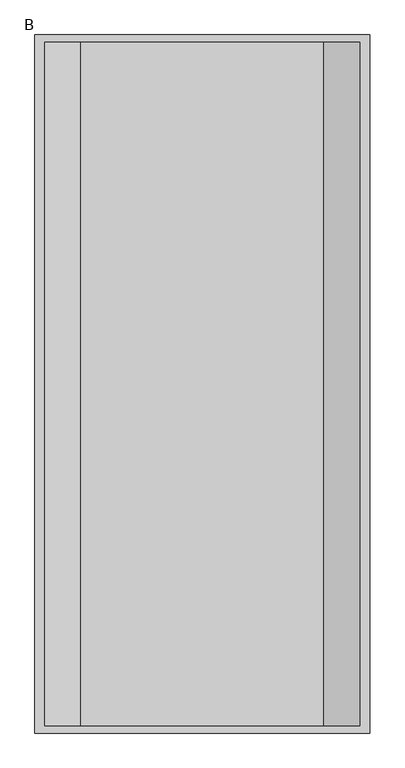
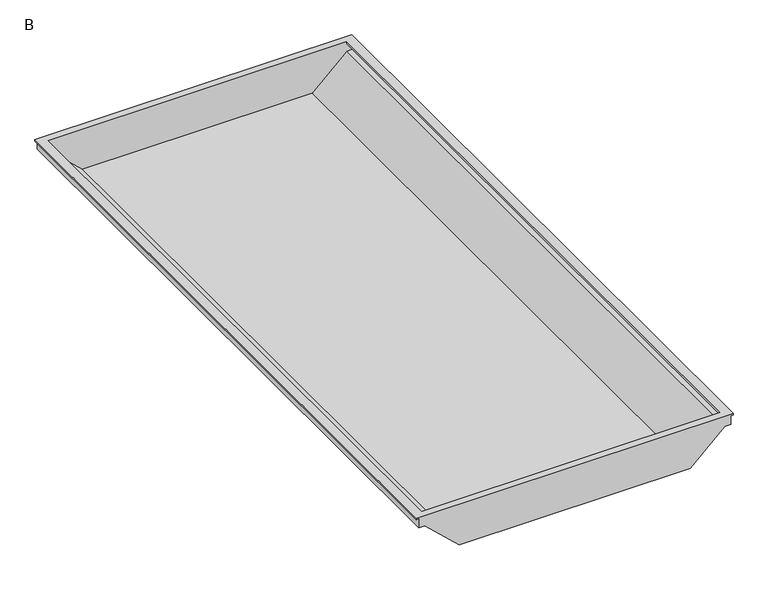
"""IFC4 building model written with IfcOpenShell, lengths in millimetres: light fixture geometry, OD74 (B) 2x4 Volumetric : B."""

import ifcopenshell
import ifcopenshell.guid

model = None  # the IFC model being written
_history = None  # IfcOwnerHistory: only IFC2X3 demands one
_inside = {}  # id of a spatial element -> (the spatial element, [elements in it])
_under = {}  # id of a project, library or spatial element -> (it, [spatial elements below it])
_declared = {}  # id of a project -> (the project, [libraries it declares])
_typed = {}  # id of a type object -> (the type object, [elements of that type])
_made_of = {}  # id of a material, layer set ... -> (it, [elements and type objects made of it])


def new_model(schema):
    """Start an empty IFC model of exactly this schema.

    Asked for "IFC4X3", IfcOpenShell would pick the latest addendum, in which some entities
    have other attributes; the version numbers below select the first issue.
    IFC2X3 requires an IfcOwnerHistory on every rooted entity: one is made here for all.
    """
    global model, _history
    if schema == "IFC4X3":
        model = ifcopenshell.file(schema_version=(4, 3, 0, 0))
    else:
        model = ifcopenshell.file(schema=schema)
    _inside.clear()
    _under.clear()
    _declared.clear()
    _typed.clear()
    _made_of.clear()
    _history = None
    if model.schema == "IFC2X3":
        org = make("IfcOrganization", Name="unknown")
        user = make(
            "IfcPersonAndOrganization",
            ThePerson=make("IfcPerson", FamilyName="unknown"),
            TheOrganization=org,
        )
        app = make(
            "IfcApplication",
            ApplicationDeveloper=org,
            Version="unknown",
            ApplicationFullName="unknown",
            ApplicationIdentifier="unknown",
        )
        _history = make(
            "IfcOwnerHistory",
            OwningUser=user,
            OwningApplication=app,
            ChangeAction="ADDED",
            CreationDate=0,
        )
    return model


def make(cls, **values):
    """One entity of the class cls with the attributes given. An attribute that is None is left unset."""
    return model.create_entity(
        cls, **{name: value for name, value in values.items() if value is not None}
    )


def rooted(cls, **values):
    """An entity with a GlobalId (a new one), such as an element, a storey or a relation."""
    return make(cls, GlobalId=ifcopenshell.guid.new(), OwnerHistory=_history, **values)


def si_unit(unit_type, name, prefix=None):
    """IfcSIUnit, for example si_unit("LENGTHUNIT", "METRE", prefix="MILLI")."""
    return make("IfcSIUnit", UnitType=unit_type, Prefix=prefix, Name=name)


def assignment(units):
    """IfcUnitAssignment: the units of a project."""
    return None if units is None else make("IfcUnitAssignment", Units=units)


def point(xyz):
    """IfcCartesianPoint."""
    return None if xyz is None else make("IfcCartesianPoint", Coordinates=xyz)


def direction(xyz):
    """IfcDirection."""
    return None if xyz is None else make("IfcDirection", DirectionRatios=xyz)


def frame(location, z_axis=None, x_axis=None):
    """IfcAxis2Placement3D, a coordinate frame: its origin and axes. An axis left out is left unset."""
    return make(
        "IfcAxis2Placement3D",
        Location=point(location),
        Axis=direction(z_axis),
        RefDirection=direction(x_axis),
    )


def origin():
    """The frame at (0, 0, 0) with its axes left unset."""
    return frame((0.0, 0.0, 0.0))


def place(relative_to, where):
    """IfcLocalPlacement: puts the frame where relative to a parent placement (None: the world)."""
    return make(
        "IfcLocalPlacement", PlacementRelTo=relative_to, RelativePlacement=where
    )


def context(
    kind, dimensions, precision=None, world=None, true_north=None, identifier=None
):
    """IfcGeometricRepresentationContext, for example the 3D "Model" context."""
    return make(
        "IfcGeometricRepresentationContext",
        ContextIdentifier=identifier,
        ContextType=kind,
        CoordinateSpaceDimension=dimensions,
        Precision=precision,
        WorldCoordinateSystem=world,
        TrueNorth=true_north,
    )


def project(units=None, contexts=None):
    """IfcProject with its units and contexts."""
    return rooted(
        "IfcProject",
        Name="project",
        RepresentationContexts=contexts,
        UnitsInContext=assignment(units),
    )


def spatial(cls, under=None, at=None, **own):
    """A site, building, storey or space (cls), placed at a placement, below another one or the project."""
    s = rooted(cls, ObjectPlacement=at, **own)
    if under is not None:
        _under.setdefault(under.id(), (under, []))[1].append(s)
    return s


def faces_of(points, faces, orient=None, outer=None):
    """IfcFace entities. A face is a list of loops; a loop is a list of indices into points, from 0.

    orient and outer hold one flag for each loop. By default every Orientation is true, the
    first loop of a face is its IfcFaceOuterBound and the others are IfcFaceBound.
    """
    made = []
    for i, loops in enumerate(faces):
        bounds = []
        for j, loop in enumerate(loops):
            is_outer = j == 0 if outer is None else outer[i][j]
            bounds.append(
                make(
                    "IfcFaceOuterBound" if is_outer else "IfcFaceBound",
                    Bound=make("IfcPolyLoop", Polygon=[points[k] for k in loop]),
                    Orientation=True if orient is None else orient[i][j],
                )
            )
        made.append(make("IfcFace", Bounds=bounds))
    return made


def faceted_brep(points, faces, orient=None, outer=None, voids=None):
    """IfcFacetedBrep: a solid bounded by flat faces; with voids (closed shells), ...WithVoids."""
    shared = [point(p) for p in points]
    hull = make("IfcClosedShell", CfsFaces=faces_of(shared, faces, orient, outer))
    if voids is None:
        return make("IfcFacetedBrep", Outer=hull)
    return make(
        "IfcFacetedBrepWithVoids",
        Outer=hull,
        Voids=[
            make(cls, CfsFaces=faces_of(shared, fs, o, b)) for cls, fs, o, b in voids
        ],
    )


def shape(context_of_items, identifier, shape_type, items):
    """IfcShapeRepresentation: the items that make up one representation, for example the "Body"."""
    return make(
        "IfcShapeRepresentation",
        ContextOfItems=context_of_items,
        RepresentationIdentifier=identifier,
        RepresentationType=shape_type,
        Items=items,
    )


def source(mapping_origin, context_of_items, identifier, shape_type, items):
    """IfcRepresentationMap: a shape defined once, which mapped items show again and again."""
    return make(
        "IfcRepresentationMap",
        MappingOrigin=mapping_origin,
        MappedRepresentation=shape(context_of_items, identifier, shape_type, items),
    )


def transform(
    local_origin,
    x_axis=None,
    y_axis=None,
    z_axis=None,
    scale=None,
    scale2=None,
    scale3=None,
    uniform=True,
):
    """IfcCartesianTransformationOperator3D, or its non-uniform kind. x_axis, y_axis, z_axis: its Axis1, 2, 3."""
    if uniform:
        return make(
            "IfcCartesianTransformationOperator3D",
            Axis1=direction(x_axis),
            Axis2=direction(y_axis),
            LocalOrigin=point(local_origin),
            Scale=scale,
            Axis3=direction(z_axis),
        )
    return make(
        "IfcCartesianTransformationOperator3DnonUniform",
        Axis1=direction(x_axis),
        Axis2=direction(y_axis),
        LocalOrigin=point(local_origin),
        Scale=scale,
        Axis3=direction(z_axis),
        Scale2=scale2,
        Scale3=scale3,
    )


def mapped(mapping_source, mapping_target):
    """IfcMappedItem: shows the shape of a source again, moved by a transform."""
    return make(
        "IfcMappedItem", MappingSource=mapping_source, MappingTarget=mapping_target
    )


def made_of(thing, what):
    """Note that an element or type object is made of a material, layer set ...; save() writes the relation."""
    if what is not None:
        _made_of.setdefault(what.id(), (what, []))[1].append(thing)
    return thing


def element(
    cls,
    number,
    at=None,
    inside=None,
    cuts=None,
    type_object=None,
    material=None,
    context=None,
    identifier="Body",
    shape_type=None,
    held_by="IfcProductDefinitionShape",
    body=None,
    shapes=None,
    **own,
):
    """One element of the class cls, such as IfcWall. Its Tag is "e" and its number.

    at: its placement. inside: the storey or other place that contains it. cuts: it is an
    opening in that element (IfcRelVoidsElement). A single representation is given by context,
    identifier, shape_type and body (its items); several are given by shapes. held_by: the class
    of the entity that holds the representations. save() writes the other relations.
    """
    e = rooted(cls, Tag="e%d" % number, ObjectPlacement=at, **own)
    if body is not None:
        shapes = [shape(context, identifier, shape_type, body)]
    if shapes is not None:
        e.Representation = make(held_by, Representations=shapes)
    if inside is not None:
        _inside.setdefault(inside.id(), (inside, []))[1].append(e)
    if cuts is not None:
        rooted(
            "IfcRelVoidsElement", RelatingBuildingElement=cuts, RelatedOpeningElement=e
        )
    if type_object is not None:
        _typed.setdefault(type_object.id(), (type_object, []))[1].append(e)
    return made_of(e, material)


def aggregate(whole, parts):
    """IfcRelAggregates: a whole, such as a stair, and the parts it consists of."""
    return rooted("IfcRelAggregates", RelatingObject=whole, RelatedObjects=parts)


def save(model, path):
    """Write the relations noted so far, then the file.

    IfcRelAggregates (storeys below a building ...), IfcRelContainedInSpatialStructure (elements
    in a storey), IfcRelDefinesByType, IfcRelAssociatesMaterial and IfcRelDeclares: one each for
    every whole, place, type object, material and project.
    """
    for whole, parts in _under.values():
        aggregate(whole, parts)
    for where, things in _inside.values():
        rooted(
            "IfcRelContainedInSpatialStructure",
            RelatedElements=things,
            RelatingStructure=where,
        )
    for kind, things in _typed.values():
        rooted("IfcRelDefinesByType", RelatedObjects=things, RelatingType=kind)
    for what, things in _made_of.values():
        rooted("IfcRelAssociatesMaterial", RelatedObjects=things, RelatingMaterial=what)
    for by, libraries in _declared.values():
        rooted("IfcRelDeclares", RelatingContext=by, RelatedDefinitions=libraries)
    model.write(path)


def b_2fc41234(model_context):
    return source(origin(), model_context, "Body", "Brep", [
        faceted_brep([(275.0914428, 596.9, 1.4698237), (-275.0914428, 596.9, 1.4698237), (-275.0914428, 596.9, -1.5560712), (-286.3929235, 596.9, -1.5560712), (-286.3929235, 596.9, -16.8096355), (-276.1021999, 596.9, -16.8096355), (-212.3140092, 596.9, -76.2930857), (212.3140092, 596.9, -76.2930857), (276.1021999, 596.9, -16.8096355), (286.3929235, 596.9, -16.8096355), (286.3929235, 596.9, -1.5560712), (275.0914428, 596.9, -1.5560712), (-292.3265781, 609.6, -1.5560712), (-292.3265781, 609.6, 1.4698237), (292.3265781, 609.6, 1.4698237), (292.3265781, 609.6, -1.5560712), (287.9804235, 609.6, -1.5560712), (287.9804235, 609.6, -18.3971355), (276.7275328, 609.6, -18.3971355), (212.9393421, 609.6, -77.8805857), (-212.9393421, 609.6, -77.8805857), (-276.7275328, 609.6, -18.3971355), (-287.9804235, 609.6, -18.3971355), (-287.9804235, 609.6, -1.5560712), (-287.9804235, -609.6, -1.5560712), (-292.3265781, -609.6, -1.5560712), (-287.9804235, -609.6, -18.3971355), (-276.7275328, -609.6, -18.3971355), (-212.9393421, -609.6, -77.8805857), (212.9393421, -609.6, -77.8805857), (276.7275328, -609.6, -18.3971355), (287.9804235, -609.6, -18.3971355), (287.9804235, -609.6, -1.5560712), (292.3265781, -609.6, -1.5560712), (292.3265781, -609.6, 1.4698237), (-292.3265781, -609.6, 1.4698237), (275.0914428, -596.9, 1.4698237), (-275.0914428, -596.9, 1.4698237), (-275.0914428, -596.9, -1.5560712), (275.0914428, -596.9, -1.5560712), (286.3929235, -596.9, -1.5560712), (286.3929235, -596.9, -16.8096355), (276.1021999, -596.9, -16.8096355), (212.3140092, -596.9, -76.2930857), (-212.3140092, -596.9, -76.2930857), (-276.1021999, -596.9, -16.8096355), (-286.3929235, -596.9, -16.8096355), (-286.3929235, -596.9, -1.5560712)], [[[0, 1, 2, 3, 4, 5, 6, 7, 8, 9, 10, 11]], [[12, 13, 14, 15, 16, 17, 18, 19, 20, 21, 22, 23]], [[12, 23, 24, 25]], [[24, 23, 22, 26]], [[26, 22, 21, 27]], [[27, 21, 20, 28]], [[28, 20, 19, 29]], [[29, 19, 18, 30]], [[30, 18, 17, 31]], [[31, 17, 16, 32]], [[32, 16, 15, 33]], [[33, 15, 14, 34]], [[34, 14, 13, 35], [0, 36, 37, 1]], [[35, 13, 12, 25]], [[38, 2, 1, 37]], [[36, 0, 11, 39]], [[39, 11, 10, 40]], [[40, 10, 9, 41]], [[41, 9, 8, 42]], [[42, 8, 7, 43]], [[43, 7, 6, 44]], [[44, 6, 5, 45]], [[45, 5, 4, 46]], [[46, 4, 3, 47]], [[2, 38, 47, 3]], [[25, 24, 26, 27, 28, 29, 30, 31, 32, 33, 34, 35]], [[37, 36, 39, 40, 41, 42, 43, 44, 45, 46, 47, 38]]]),
    ])


if __name__ == "__main__":
    model = new_model("IFC4")
    model_context = context("Model", 3, world=origin())
    ifc_project = project(units=[si_unit("LENGTHUNIT", "METRE", prefix="MILLI")], contexts=[model_context])
    site = spatial("IfcSite", under=ifc_project)
    building = spatial("IfcBuilding", under=site)
    placement = place(None, origin())
    b_shape = b_2fc41234(model_context)
    element("IfcLightFixture", 1, ObjectType="OD74 (B) 2x4 Volumetric : B", at=placement, inside=building, context=model_context, shape_type="MappedRepresentation", body=[
        mapped(b_shape, transform((0.0, 0.0, 0.0), x_axis=(1.0, 0.0, 0.0), y_axis=(0.0, 1.0, 0.0), z_axis=(0.0, 0.0, 1.0))),
    ])
    save(model, "model.ifc")
